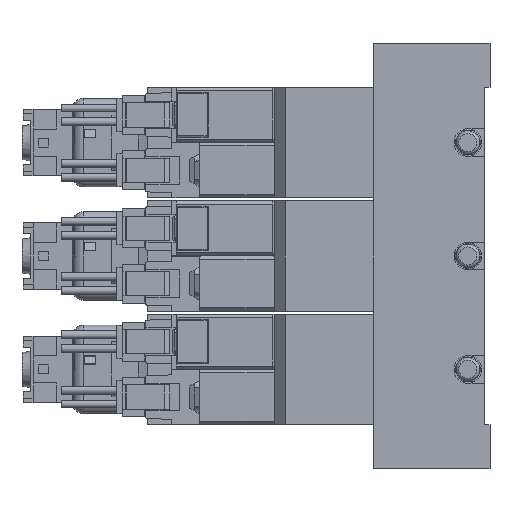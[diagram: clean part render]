
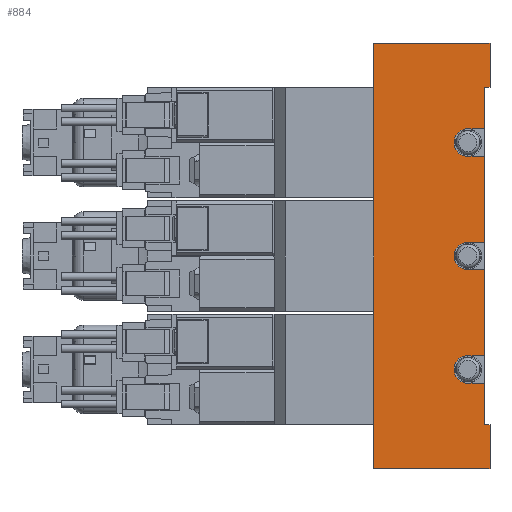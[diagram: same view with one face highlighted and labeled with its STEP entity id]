
A CAD part, left-side view. The second image highlights one B-rep face of the part: STEP entity #884.
In plain terms, the highlighted planar face has unit normal (-1, 0, 0) as drawn and (1, 0, 0) by its records, which use the part's own axes.
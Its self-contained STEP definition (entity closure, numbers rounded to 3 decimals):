
#884=ADVANCED_FACE('',(#2987),#2988,.F.);
#2987=FACE_OUTER_BOUND('',#6761,.T.);
#2988=PLANE('',#6762);
#6761=EDGE_LOOP('',(#12897,#12898,#12899,#12900,#12901,#12902,#12903,#12904,#12905,#12906,#12907,#12908,#12909,#12910,#12911,#12912,#12913,#12914,#12915,#12916));
#6762=AXIS2_PLACEMENT_3D('',#12917,#12918,#12919);
#12897=ORIENTED_EDGE('',*,*,#23874,.T.);
#12898=ORIENTED_EDGE('',*,*,#23875,.T.);
#12899=ORIENTED_EDGE('',*,*,#23842,.F.);
#12900=ORIENTED_EDGE('',*,*,#23876,.F.);
#12901=ORIENTED_EDGE('',*,*,#23877,.T.);
#12902=ORIENTED_EDGE('',*,*,#23878,.T.);
#12903=ORIENTED_EDGE('',*,*,#23879,.T.);
#12904=ORIENTED_EDGE('',*,*,#23818,.F.);
#12905=ORIENTED_EDGE('',*,*,#23880,.F.);
#12906=ORIENTED_EDGE('',*,*,#23852,.F.);
#12907=ORIENTED_EDGE('',*,*,#23881,.T.);
#12908=ORIENTED_EDGE('',*,*,#23882,.F.);
#12909=ORIENTED_EDGE('',*,*,#23883,.F.);
#12910=ORIENTED_EDGE('',*,*,#23884,.F.);
#12911=ORIENTED_EDGE('',*,*,#23885,.T.);
#12912=ORIENTED_EDGE('',*,*,#23868,.F.);
#12913=ORIENTED_EDGE('',*,*,#23886,.F.);
#12914=ORIENTED_EDGE('',*,*,#23863,.F.);
#12915=ORIENTED_EDGE('',*,*,#23887,.T.);
#12916=ORIENTED_EDGE('',*,*,#23888,.T.);
#12917=CARTESIAN_POINT('',(17.5,1.0,38.5));
#12918=DIRECTION('',(-1.0,0.0,0.0));
#12919=DIRECTION('',(0.0,0.0,1.0));
#23818=EDGE_CURVE('',#29000,#29001,#29002,.T.);
#23842=EDGE_CURVE('',#29045,#29040,#29047,.T.);
#23852=EDGE_CURVE('',#29062,#29063,#29064,.T.);
#23863=EDGE_CURVE('',#29082,#29083,#29084,.T.);
#23868=EDGE_CURVE('',#29091,#29092,#29093,.T.);
#23874=EDGE_CURVE('',#29102,#29103,#29104,.T.);
#23875=EDGE_CURVE('',#29103,#29040,#29105,.T.);
#23876=EDGE_CURVE('',#29106,#29045,#29107,.T.);
#23877=EDGE_CURVE('',#29106,#29108,#29109,.T.);
#23878=EDGE_CURVE('',#29108,#29110,#29111,.T.);
#23879=EDGE_CURVE('',#29110,#29001,#29112,.T.);
#23880=EDGE_CURVE('',#29063,#29000,#29113,.T.);
#23881=EDGE_CURVE('',#29062,#29114,#29115,.T.);
#23882=EDGE_CURVE('',#29116,#29114,#29117,.T.);
#23883=EDGE_CURVE('',#29118,#29116,#29119,.T.);
#23884=EDGE_CURVE('',#29120,#29118,#29121,.T.);
#23885=EDGE_CURVE('',#29120,#29092,#29122,.T.);
#23886=EDGE_CURVE('',#29083,#29091,#29123,.T.);
#23887=EDGE_CURVE('',#29082,#29124,#29125,.T.);
#23888=EDGE_CURVE('',#29124,#29102,#29126,.T.);
#29000=VERTEX_POINT('',#36898);
#29001=VERTEX_POINT('',#36899);
#29002=LINE('',#36900,#36901);
#29040=VERTEX_POINT('',#37033);
#29045=VERTEX_POINT('',#37040);
#29047=LINE('',#37043,#37044);
#29062=VERTEX_POINT('',#37060);
#29063=VERTEX_POINT('',#37061);
#29064=LINE('',#37062,#37063);
#29082=VERTEX_POINT('',#37087);
#29083=VERTEX_POINT('',#37088);
#29084=LINE('',#37089,#37090);
#29091=VERTEX_POINT('',#37101);
#29092=VERTEX_POINT('',#37102);
#29093=LINE('',#37103,#37104);
#29102=VERTEX_POINT('',#37117);
#29103=VERTEX_POINT('',#37118);
#29104=LINE('',#37119,#37120);
#29105=LINE('',#37121,#37122);
#29106=VERTEX_POINT('',#37123);
#29107=LINE('',#37124,#37125);
#29108=VERTEX_POINT('',#37126);
#29109=LINE('',#37127,#37128);
#29110=VERTEX_POINT('',#37129);
#29111=LINE('',#37130,#37131);
#29112=LINE('',#37132,#37133);
#29113=CIRCLE('',#37134,2.5);
#29114=VERTEX_POINT('',#37135);
#29115=LINE('',#37136,#37137);
#29116=VERTEX_POINT('',#37138);
#29117=LINE('',#37139,#37140);
#29118=VERTEX_POINT('',#37141);
#29119=CIRCLE('',#37142,2.5);
#29120=VERTEX_POINT('',#37143);
#29121=LINE('',#37144,#37145);
#29122=LINE('',#37146,#37147);
#29123=CIRCLE('',#37148,2.5);
#29124=VERTEX_POINT('',#37149);
#29125=LINE('',#37150,#37151);
#29126=LINE('',#37152,#37153);
#36898=CARTESIAN_POINT('',(17.5,4.0,23.0));
#36899=CARTESIAN_POINT('',(17.5,1.0,23.0));
#36900=CARTESIAN_POINT('',(17.5,1.0,23.0));
#36901=VECTOR('',#46224,1.0);
#37033=CARTESIAN_POINT('',(17.5,21.0,-38.5));
#37040=CARTESIAN_POINT('',(17.5,21.0,38.5));
#37043=CARTESIAN_POINT('',(17.5,21.0,38.5));
#37044=VECTOR('',#46267,1.0);
#37060=CARTESIAN_POINT('',(17.5,1.0,18.0));
#37061=CARTESIAN_POINT('',(17.5,4.0,18.0));
#37062=CARTESIAN_POINT('',(17.5,1.0,18.0));
#37063=VECTOR('',#46290,1.0);
#37087=CARTESIAN_POINT('',(17.5,1.0,-23.0));
#37088=CARTESIAN_POINT('',(17.5,4.0,-23.0));
#37089=CARTESIAN_POINT('',(17.5,1.0,-23.0));
#37090=VECTOR('',#46309,1.0);
#37101=CARTESIAN_POINT('',(17.5,4.0,-18.0));
#37102=CARTESIAN_POINT('',(17.5,1.0,-18.0));
#37103=CARTESIAN_POINT('',(17.5,1.0,-18.0));
#37104=VECTOR('',#46314,1.0);
#37117=CARTESIAN_POINT('',(17.5,0.0,-30.5));
#37118=CARTESIAN_POINT('',(17.5,0.0,-38.5));
#37119=CARTESIAN_POINT('',(17.5,0.0,-30.5));
#37120=VECTOR('',#46322,1.0);
#37121=CARTESIAN_POINT('',(17.5,1.0,-38.5));
#37122=VECTOR('',#46323,1.0);
#37123=CARTESIAN_POINT('',(17.5,0.0,38.5));
#37124=CARTESIAN_POINT('',(17.5,1.0,38.5));
#37125=VECTOR('',#46324,1.0);
#37126=CARTESIAN_POINT('',(17.5,0.0,30.5));
#37127=CARTESIAN_POINT('',(17.5,0.0,38.5));
#37128=VECTOR('',#46325,1.0);
#37129=CARTESIAN_POINT('',(17.5,1.0,30.5));
#37130=CARTESIAN_POINT('',(17.5,0.0,30.5));
#37131=VECTOR('',#46326,1.0);
#37132=CARTESIAN_POINT('',(17.5,1.0,38.5));
#37133=VECTOR('',#46327,1.0);
#37134=AXIS2_PLACEMENT_3D('',#46328,#46329,#46330);
#37135=CARTESIAN_POINT('',(17.5,1.0,2.5));
#37136=CARTESIAN_POINT('',(17.5,1.0,38.5));
#37137=VECTOR('',#46331,1.0);
#37138=CARTESIAN_POINT('',(17.5,4.0,2.5));
#37139=CARTESIAN_POINT('',(17.5,1.0,2.5));
#37140=VECTOR('',#46332,1.0);
#37141=CARTESIAN_POINT('',(17.5,4.0,-2.5));
#37142=AXIS2_PLACEMENT_3D('',#46333,#46334,#46335);
#37143=CARTESIAN_POINT('',(17.5,1.0,-2.5));
#37144=CARTESIAN_POINT('',(17.5,1.0,-2.5));
#37145=VECTOR('',#46336,1.0);
#37146=CARTESIAN_POINT('',(17.5,1.0,38.5));
#37147=VECTOR('',#46337,1.0);
#37148=AXIS2_PLACEMENT_3D('',#46338,#46339,#46340);
#37149=CARTESIAN_POINT('',(17.5,1.0,-30.5));
#37150=CARTESIAN_POINT('',(17.5,1.0,38.5));
#37151=VECTOR('',#46341,1.0);
#37152=CARTESIAN_POINT('',(17.5,4.0,-30.5));
#37153=VECTOR('',#46342,1.0);
#46224=DIRECTION('',(0.0,-1.0,0.0));
#46267=DIRECTION('',(0.0,0.0,-1.0));
#46290=DIRECTION('',(0.0,1.0,0.0));
#46309=DIRECTION('',(0.0,1.0,0.0));
#46314=DIRECTION('',(0.0,-1.0,0.0));
#46322=DIRECTION('',(0.0,0.0,-1.0));
#46323=DIRECTION('',(0.0,1.0,0.0));
#46324=DIRECTION('',(0.0,1.0,0.0));
#46325=DIRECTION('',(0.0,0.0,-1.0));
#46326=DIRECTION('',(0.0,1.0,0.0));
#46327=DIRECTION('',(0.0,0.0,-1.0));
#46328=CARTESIAN_POINT('',(17.5,4.0,20.5));
#46329=DIRECTION('',(1.0,0.0,-0.0));
#46330=DIRECTION('',(0.0,0.0,1.0));
#46331=DIRECTION('',(0.0,0.0,-1.0));
#46332=DIRECTION('',(0.0,-1.0,0.0));
#46333=CARTESIAN_POINT('',(17.5,4.0,0.0));
#46334=DIRECTION('',(1.0,0.0,-0.0));
#46335=DIRECTION('',(0.0,0.0,1.0));
#46336=DIRECTION('',(0.0,1.0,0.0));
#46337=DIRECTION('',(0.0,0.0,-1.0));
#46338=CARTESIAN_POINT('',(17.5,4.0,-20.5));
#46339=DIRECTION('',(1.0,0.0,-0.0));
#46340=DIRECTION('',(0.0,0.0,1.0));
#46341=DIRECTION('',(0.0,0.0,-1.0));
#46342=DIRECTION('',(0.0,-1.0,0.0));
